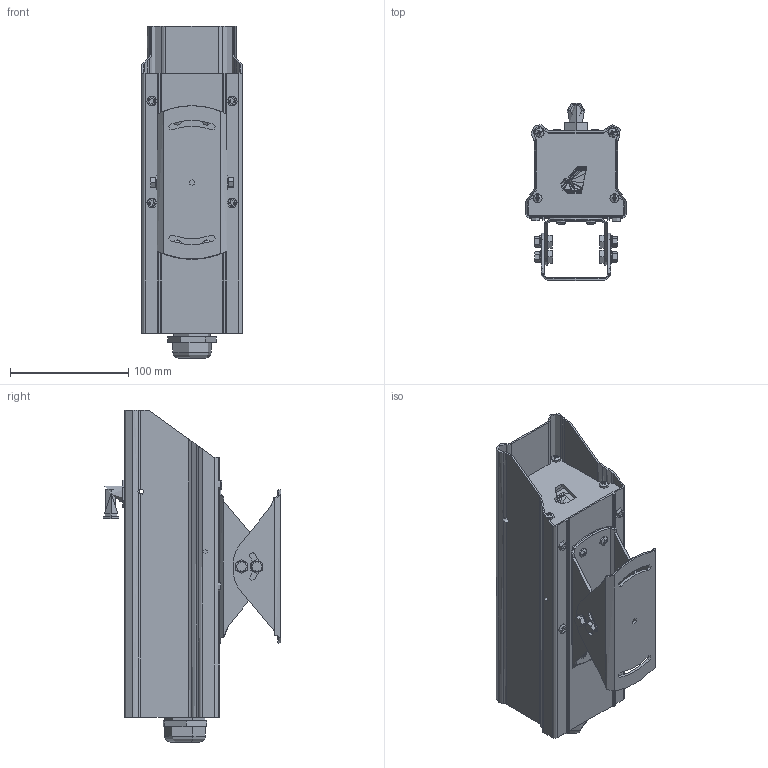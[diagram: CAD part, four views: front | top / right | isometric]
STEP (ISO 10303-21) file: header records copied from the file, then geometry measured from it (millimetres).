
FILE_DESCRIPTION (( 'STEP AP214' ), '1' );
FILE_NAME ('D_Series_air jacket_IEthernet_2021.STEP', '2021-07-01T15:20:35', ( '' ), ( '' ), 'SwSTEP 2.0', 'SolidWorks 2020', '' );
FILE_SCHEMA (( 'AUTOMOTIVE_DESIGN' ));
Length unit declared in the file: millimetre
Products named in the file (16): pan head cross recess screw_din_DIN EN ISO 7045 - M4 x 10 - Z - 10N; bolt_M4_8.STEP_00; tilting base under.STEP_00; hex flange bolt_din_DIN 6921 - M5 x 10 x 10-N; D_Series_air jacket_IEthernet_2021; 3mm ____ __ _______Main housing.STEP_00; E_Dimetix_D_Series.STEP_00; 03_Air guide block.STEP_00; cable grand_M32.STEP_00; 40x25 glass.STEP_00; tilting base top1.STEP_00; 04_Rear cover ______.STEP_00; Dimetix_D_Series_air jacket_IEthernet_2021.STEP_00; 01_Front cover.STEP_00; -3MM ____ Air guide.STEP_00; PT1-8 AIR NIPPLE.STEP_00
Assembly tree (36 placements, depth 3):
  D_Series_air jacket_IEthernet_2021
    Dimetix_D_Series_air jacket_IEthernet_2021.STEP_00
      3mm ____ __ _______Main housing.STEP_00
      E_Dimetix_D_Series.STEP_00
      03_Air guide block.STEP_00
      01_Front cover.STEP_00
      40x25 glass.STEP_00
      PT1-8 AIR NIPPLE.STEP_00
      tilting base top1.STEP_00
      tilting base under.STEP_00
      cable grand_M32.STEP_00
      -3MM ____ Air guide.STEP_00
      bolt_M4_8.STEP_00  x4
      04_Rear cover ______.STEP_00
    pan head cross recess screw_din_DIN EN ISO 7045 - M4 x 10 - Z - 10N  x16
    hex flange bolt_din_DIN 6921 - M5 x 10 x 10-N  x4
Bounding box: 85 x 150 x 281 mm (x, y, z)
Topology: 34 solids, 96 shells, 4347 faces, 11534 edges, 7280 vertices
Faces by surface type: plane 1590, cylinder 1240, bspline 842, cone 499, torus 120, sphere 56
Entity records: 168373 total; most frequent: CARTESIAN_POINT 96622, ORIENTED_EDGE 18541, EDGE_CURVE 9698, DIRECTION 8246, B_SPLINE_CURVE_WITH_KNOTS 7206, VERTEX_POINT 6234, EDGE_LOOP 3988, AXIS2_PLACEMENT_3D 3621
